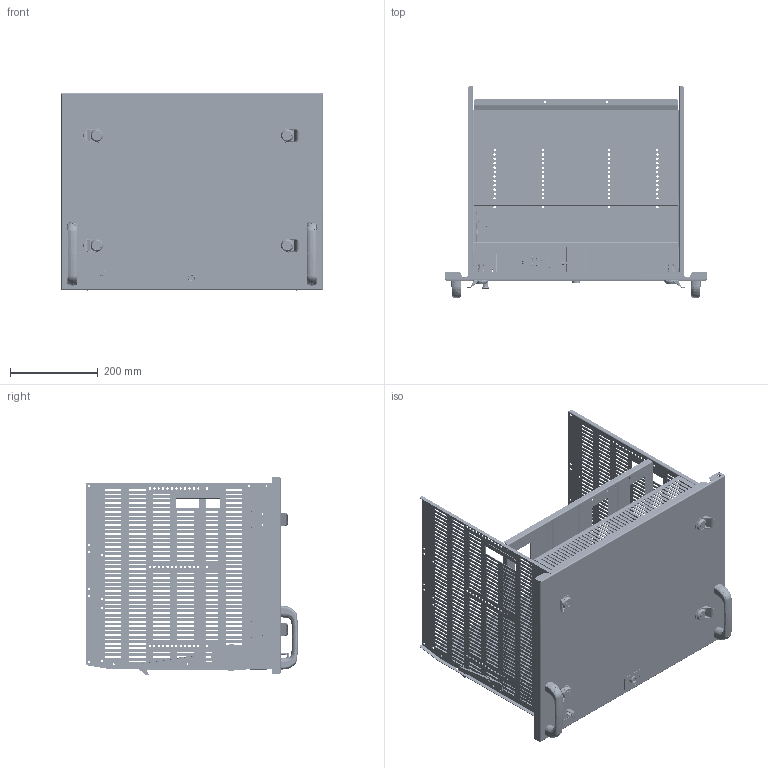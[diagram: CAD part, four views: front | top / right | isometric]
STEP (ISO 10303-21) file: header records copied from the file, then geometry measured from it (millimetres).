
FILE_DESCRIPTION(('CAx-IF Rec.Pracs.---Model Styling and Organization---1.2---2011-12-15','CAx-IF Rec.Pracs.---Geometric and Assembly Validation Properties---4.1---2014-06-16','CAx-IF Rec.Pracs.---PMI Polyline Presentation---2.0---2013-05-24'),'2;1');
FILE_NAME('R5M2W9M1B-L.stp','2021-05-05T12:37:01+03:00',(''),(''),'STEP Interface 4.4 by CT CoreTechnologie','3D_Evolution4.4 by CT CoreTechnologie','');
FILE_SCHEMA(('AUTOMOTIVE_DESIGN { 1 0 10303 214 1 1 1 1 }'));
Length unit declared in the file: millimetre
Products named in the file (73): R5M2W9M1B; RB.1945.00.00.0; M6x20 GOST 17475-80 (DIN 965)_stright; RB.1505.00.00.1 ÑÁ; Ì4-GOST R 50273-92 (DIN 985)_stright DIN EN ISO 10511 - M4 - N; RB.1505.00.04.0_-00; RB.1503.00.00.0 ÑÁ; RB.1503.00.01.0_-00; RB.1503.00.02.0_-00; RB.1503.00.03.0_123; RB.1503.00.06.0_-00; RB.1503.00.07.0_-00; RB.1503.00.08.0_'­ ª«¥¥­­ ï'; RB.1505.00.05.0_-00; RB.1505.00.06.0; RB.1500.00.00.1 ÑÁ_-00 (ëª«); M4x25 GOST 17473-80 (DIN 7985)_stright; RB.1500.00.03.0; RB.1500.00.04.1_-00; RB.1500.00.05.1; RB.1500.00.06.0; RB.1500.00.07.0; RB.1500.00.08.1; M6-DIN 985 (ISO 10511) (CM250600)_stright; RB.1505.00.02.0; M5x12-DIN 7500M ISR_stright; RB.1505.00.01.1; RB.1504.00.00.1 ÑÁ; RB.1504.00.02.1_-01; RB.1504.00.02.1_-00; RB.1504.00.03.1; RB.1504.01.00.0 ÑÁ; RB.1504.01.01.0; RB.1504.00.01.1; RB.1505.00.03.0_-00; A.6.01-GOST 11371-78 (DIN 125A) (CM240600)_ ©¡  A.6.016  11371-78; RB.1513.00.00.0; M5x8-DIN7500C_stright; 5.W28.004; 4.444.002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
Assembly tree (121 placements, depth 5):
  R5M2W9M1B
    RB.1945.00.00.0  x4
    M6x20 GOST 17475-80 (DIN 965)_stright  x4
    RB.1505.00.00.1 ÑÁ
      Ì4-GOST R 50273-92 (DIN 985)_stright DIN EN ISO 10511 - M4 - N  x10
      RB.1505.00.04.0_-00
      RB.1503.00.00.0 ÑÁ
        RB.1503.00.01.0_-00
        RB.1503.00.02.0_-00
        RB.1503.00.03.0_123
        RB.1503.00.06.0_-00
        RB.1503.00.07.0_-00
      RB.1505.00.05.0_-00
      RB.1505.00.06.0
      RB.1500.00.00.1 ÑÁ_-00 (ëª«)
        M4x25 GOST 17473-80 (DIN 7985)_stright
        RB.1500.00.03.0
        RB.1500.00.04.1_-00
        RB.1500.00.05.1
        RB.1500.00.06.0
        RB.1500.00.07.0
        RB.1500.00.08.1
        M6-DIN 985 (ISO 10511) (CM250600)_stright
        Ì4-GOST R 50273-92 (DIN 985)_stright DIN EN ISO 10511 - M4 - N
      RB.1505.00.02.0  x2
      M5x12-DIN 7500M ISR_stright  x6
      RB.1505.00.01.1
      RB.1504.00.00.1 ÑÁ
        RB.1504.00.02.1_-01
        RB.1504.00.02.1_-00
        RB.1504.00.03.1
        RB.1504.01.00.0 ÑÁ
          RB.1504.01.01.0
        RB.1504.00.01.1
      M6-DIN 985 (ISO 10511) (CM250600)_stright
      RB.1505.00.03.0_-00
      A.6.01-GOST 11371-78 (DIN 125A) (CM240600)_ ©¡  A.6.016  11371-78
      RB.1513.00.00.0
      M5x8-DIN7500C_stright  x2
    5.W28.004  x4
    4.444.002  x2
      PR.DT477.120.02-poprawa
      PR.DT477.120.01
    AC00C148_AC00C148  x3
    RB.1497.00.00.0 ÑÁ_-00
      M5x10-GOST 11738-84 (DIN 912)_stright  x2
      RB.1419.00.02.0_-01
      RB.1419.00.02.0_-02
      RB.1497.00.06.0_-00
      RB.1497.00.03.0_-00
      M5x8-DIN7500C_stright  x2
      RB.1497.00.01.0_-00
      RB.1497.00.02.0
      RB.1497.00.04.0_-00
      Ì4-GOST R 50273-92 (DIN 985)_stright DIN EN ISO 10511 - M4 - N  x5
    RB.1943.00.00.0_-04
      RB.1499.00.02.0_-00  x3
      M6 art.MGR-MKO-0625_2¬¬  x3
      RB.1499.00.04.0_-00
      RB.1943.00.01.0_-04
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Bounding box: 594 x 482.84 x 448.93 mm (x, y, z)
Surface area: 2590141.4 mm2 (no closed solid volume)
Topology: 0 solids, 168 shells, 7535 faces, 20282 edges, 12984 vertices
Faces by surface type: plane 4410, cylinder 1844, bspline 1281
Full cylindrical faces by diameter (mm): 3.2 x2
Entity records: 201235 total; most frequent: CARTESIAN_POINT 50861, ORIENTED_EDGE 30920, DIRECTION 28792, EDGE_CURVE 15484, VECTOR 11740, LINE 11740, VERTEX_POINT 10073, AXIS2_PLACEMENT_3D 8526
